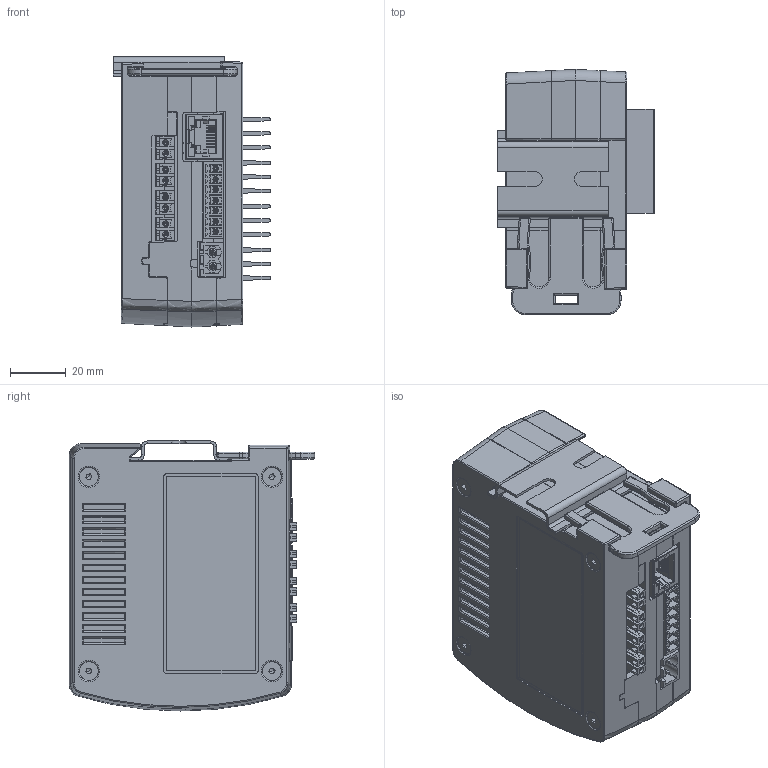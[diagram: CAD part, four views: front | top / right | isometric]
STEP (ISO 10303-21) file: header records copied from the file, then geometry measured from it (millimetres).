
FILE_DESCRIPTION (( 'STEP AP214' ), '1' );
FILE_NAME ('02681.00 Controller CTR-52.STEP', '2021-04-13T06:59:09', ( '' ), ( '' ), 'SwSTEP 2.0', 'SolidWorks 2013', '' );
FILE_SCHEMA (( 'AUTOMOTIVE_DESIGN' ));
Length unit declared in the file: millimetre
Products named in the file (12): Hutschiene; 02583.00 Hutschienenclip CTR 52; 02458.00 Platine CTR-52 LED; DIN 934 M3; 02681.00 Controller CTR-52; 02527.01 Gehäusezwischenteil CTR Serie; 02525.01 Gehäuseoberteil CTR Serie; 02526.00 Gehäuseunterteil CTR Serie; 00760.02 K黨lk鰎per CTR Serie; Senkkopfschraube M3x43,; 02457.00 Platine CTR-52 CPU; 02532.00 Aufkleber Typenschild CTR-50
Assembly tree (17 placements, depth 2):
  02681.00 Controller CTR-52
    Hutschiene
    02583.00 Hutschienenclip CTR 52
    02457.00 Platine CTR-52 CPU
    00760.02 K黨lk鰎per CTR Serie
    02532.00 Aufkleber Typenschild CTR-50
    02526.00 Gehäuseunterteil CTR Serie
    02525.01 Gehäuseoberteil CTR Serie
    02527.01 Gehäusezwischenteil CTR Serie
    Senkkopfschraube M3x43,  x4
    DIN 934 M3  x4
    02458.00 Platine CTR-52 LED
Bounding box: 56.7 x 88.38 x 97.31 mm (x, y, z)
Volume: 99882.1 mm3; surface area: 126117.9 mm2
Topology: 47 solids, 47 shells, 4944 faces, 13240 edges, 8383 vertices
Faces by surface type: plane 3038, cylinder 1266, bspline 346, cone 220, torus 59, sphere 15
Entity records: 192642 total; most frequent: CARTESIAN_POINT 38521, ORIENTED_EDGE 25802, DIRECTION 22685, EDGE_CURVE 12901, VECTOR 9391, LINE 9391, VERTEX_POINT 8216, AXIS2_PLACEMENT_3D 6647
